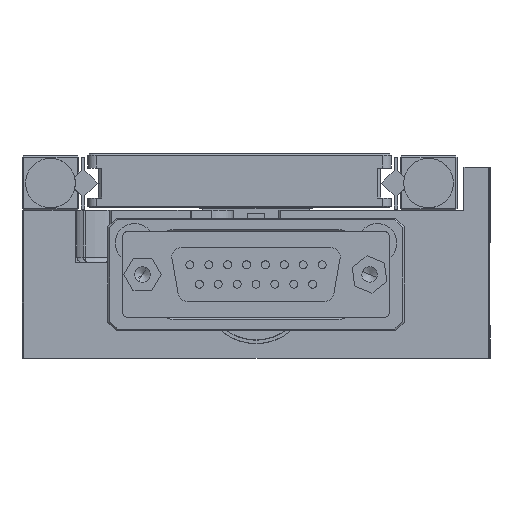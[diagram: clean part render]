
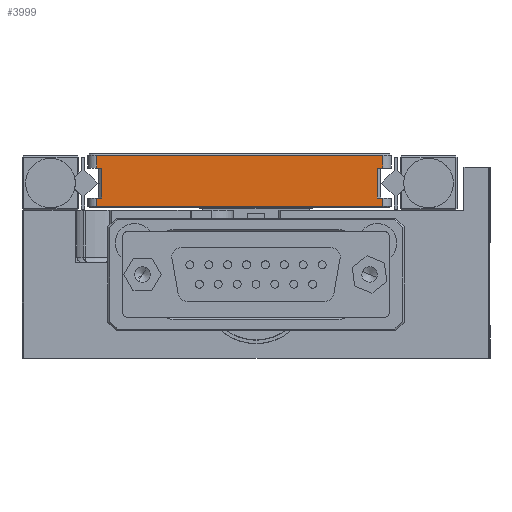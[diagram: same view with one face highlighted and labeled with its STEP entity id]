
A CAD part, left-side view. The second image highlights one B-rep face of the part: STEP entity #3999.
In plain terms, the highlighted planar face has unit normal (-1, 0, 0).
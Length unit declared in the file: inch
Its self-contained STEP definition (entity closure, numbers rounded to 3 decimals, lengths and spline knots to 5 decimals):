
#150 = VERTEX_POINT ( 'NONE', #38722 ) ;
#2372 = VERTEX_POINT ( 'NONE', #49169 ) ;
#2497 = ORIENTED_EDGE ( 'NONE', *, *, #22150, .T. ) ;
#3202 = LINE ( 'NONE', #52570, #5782 ) ;
#3964 = DIRECTION ( 'NONE',  ( 0., -1., 0. ) ) ;
#3999 = ADVANCED_FACE ( 'NONE', ( #37533 ), #55001, .F. ) ;
#5526 = CARTESIAN_POINT ( 'NONE',  ( 0., 2.24016, 0.07749 ) ) ;
#5700 = CARTESIAN_POINT ( 'NONE',  ( 0., 0.57016, -0.17851 ) ) ;
#5782 = VECTOR ( 'NONE', #43398, 39.37008 ) ;
#6810 = ORIENTED_EDGE ( 'NONE', *, *, #10796, .T. ) ;
#7253 = CARTESIAN_POINT ( 'NONE',  ( 0., 0.57016, -0.17851 ) ) ;
#8930 = ORIENTED_EDGE ( 'NONE', *, *, #50907, .T. ) ;
#9363 = EDGE_CURVE ( 'NONE', #2372, #38353, #29095, .T. ) ;
#9560 = CARTESIAN_POINT ( 'NONE',  ( 0., 2.27016, 0.06749 ) ) ;
#9643 = DIRECTION ( 'NONE',  ( 0., 0., -1. ) ) ;
#9780 = VERTEX_POINT ( 'NONE', #18853 ) ;
#9837 = DIRECTION ( 'NONE',  ( 0., 1., 0. ) ) ;
#10106 = VERTEX_POINT ( 'NONE', #50497 ) ;
#10478 = ORIENTED_EDGE ( 'NONE', *, *, #9363, .T. ) ;
#10796 = EDGE_CURVE ( 'NONE', #9780, #150, #57565, .T. ) ;
#12564 = VECTOR ( 'NONE', #46450, 39.37008 ) ;
#12585 = ORIENTED_EDGE ( 'NONE', *, *, #49159, .T. ) ;
#13665 = VECTOR ( 'NONE', #29970, 39.37008 ) ;
#13677 = DIRECTION ( 'NONE',  ( 0., -1., 0. ) ) ;
#15522 = CARTESIAN_POINT ( 'NONE',  ( 0., 0.62016, 0.07749 ) ) ;
#16604 = VECTOR ( 'NONE', #21721, 39.37008 ) ;
#17354 = VERTEX_POINT ( 'NONE', #55483 ) ;
#18853 = CARTESIAN_POINT ( 'NONE',  ( 0., 0.65016, -0.17851 ) ) ;
#19284 = CARTESIAN_POINT ( 'NONE',  ( 0., 2.27016, 0.07749 ) ) ;
#19331 = DIRECTION ( 'NONE',  ( 0., 0., 1. ) ) ;
#19419 = CARTESIAN_POINT ( 'NONE',  ( 0., 0.57016, 0.07749 ) ) ;
#19651 = LINE ( 'NONE', #15522, #20379 ) ;
#19700 = EDGE_CURVE ( 'NONE', #39453, #51219, #3202, .T. ) ;
#19906 = ORIENTED_EDGE ( 'NONE', *, *, #42323, .T. ) ;
#20042 = DIRECTION ( 'NONE',  ( 0., 1., 0. ) ) ;
#20334 = VERTEX_POINT ( 'NONE', #22801 ) ;
#20379 = VECTOR ( 'NONE', #19331, 39.37008 ) ;
#20636 = ORIENTED_EDGE ( 'NONE', *, *, #30310, .T. ) ;
#21721 = DIRECTION ( 'NONE',  ( 0., 0., 1. ) ) ;
#22150 = EDGE_CURVE ( 'NONE', #17354, #34044, #32586, .T. ) ;
#22227 = LINE ( 'NONE', #44715, #54124 ) ;
#22487 = VECTOR ( 'NONE', #9643, 39.37008 ) ;
#22801 = CARTESIAN_POINT ( 'NONE',  ( 0., 2.24016, -0.00651 ) ) ;
#22917 = LINE ( 'NONE', #5526, #22487 ) ;
#23837 = EDGE_CURVE ( 'NONE', #9780, #39703, #29685, .T. ) ;
#24194 = DIRECTION ( 'NONE',  ( 1., 0., 0. ) ) ;
#24587 = VECTOR ( 'NONE', #9837, 39.37008 ) ;
#25502 = AXIS2_PLACEMENT_3D ( 'NONE', #19419, #24194, #20042 ) ;
#25840 = CARTESIAN_POINT ( 'NONE',  ( 0., 0.65016, -0.00651 ) ) ;
#25883 = VECTOR ( 'NONE', #46731, 39.37008 ) ;
#27666 = VECTOR ( 'NONE', #13677, 39.37008 ) ;
#28802 = DIRECTION ( 'NONE',  ( 0., 0., -1. ) ) ;
#29095 = LINE ( 'NONE', #19284, #57345 ) ;
#29685 = LINE ( 'NONE', #7253, #13665 ) ;
#29970 = DIRECTION ( 'NONE',  ( 0., -1., 0. ) ) ;
#30310 = EDGE_CURVE ( 'NONE', #43923, #39703, #19651, .T. ) ;
#31065 = LINE ( 'NONE', #44645, #48182 ) ;
#31750 = CARTESIAN_POINT ( 'NONE',  ( 0., 2.27016, -0.22501 ) ) ;
#31960 = CARTESIAN_POINT ( 'NONE',  ( 0., 0.62016, -0.22501 ) ) ;
#32586 = LINE ( 'NONE', #46157, #12564 ) ;
#33222 = ORIENTED_EDGE ( 'NONE', *, *, #38833, .F. ) ;
#34044 = VERTEX_POINT ( 'NONE', #43281 ) ;
#35818 = DIRECTION ( 'NONE',  ( 0., 1., 0. ) ) ;
#36246 = ORIENTED_EDGE ( 'NONE', *, *, #19700, .T. ) ;
#37533 = FACE_OUTER_BOUND ( 'NONE', #53136, .T. ) ;
#38353 = VERTEX_POINT ( 'NONE', #40061 ) ;
#38722 = CARTESIAN_POINT ( 'NONE',  ( 0., 0.65016, -0.00651 ) ) ;
#38833 = EDGE_CURVE ( 'NONE', #17354, #150, #31065, .T. ) ;
#39453 = VERTEX_POINT ( 'NONE', #51482 ) ;
#39703 = VERTEX_POINT ( 'NONE', #41068 ) ;
#40061 = CARTESIAN_POINT ( 'NONE',  ( 0., 2.27016, -0.00651 ) ) ;
#41011 = ORIENTED_EDGE ( 'NONE', *, *, #23837, .F. ) ;
#41068 = CARTESIAN_POINT ( 'NONE',  ( 0., 0.62016, -0.17851 ) ) ;
#42011 = LINE ( 'NONE', #5700, #25883 ) ;
#42323 = EDGE_CURVE ( 'NONE', #10106, #39453, #42011, .T. ) ;
#43281 = CARTESIAN_POINT ( 'NONE',  ( 0., 0.62016, 0.06749 ) ) ;
#43398 = DIRECTION ( 'NONE',  ( 0., 0., -1. ) ) ;
#43923 = VERTEX_POINT ( 'NONE', #31960 ) ;
#44178 = CARTESIAN_POINT ( 'NONE',  ( 0., 0.57016, -0.22501 ) ) ;
#44645 = CARTESIAN_POINT ( 'NONE',  ( 0., 0.57016, -0.00651 ) ) ;
#44715 = CARTESIAN_POINT ( 'NONE',  ( 0., 0.57016, -0.00651 ) ) ;
#46157 = CARTESIAN_POINT ( 'NONE',  ( 0., 0.62016, 0.07749 ) ) ;
#46260 = EDGE_CURVE ( 'NONE', #34044, #2372, #55694, .T. ) ;
#46450 = DIRECTION ( 'NONE',  ( 0., 0., 1. ) ) ;
#46731 = DIRECTION ( 'NONE',  ( 0., 1., 0. ) ) ;
#48182 = VECTOR ( 'NONE', #35818, 39.37008 ) ;
#49159 = EDGE_CURVE ( 'NONE', #51219, #43923, #54528, .T. ) ;
#49169 = CARTESIAN_POINT ( 'NONE',  ( 0., 2.27016, 0.06749 ) ) ;
#50497 = CARTESIAN_POINT ( 'NONE',  ( 0., 2.24016, -0.17851 ) ) ;
#50907 = EDGE_CURVE ( 'NONE', #20334, #10106, #22917, .T. ) ;
#51219 = VERTEX_POINT ( 'NONE', #31750 ) ;
#51482 = CARTESIAN_POINT ( 'NONE',  ( 0., 2.27016, -0.17851 ) ) ;
#52570 = CARTESIAN_POINT ( 'NONE',  ( 0., 2.27016, 0.07749 ) ) ;
#53136 = EDGE_LOOP ( 'NONE', ( #41011, #6810, #33222, #2497, #53354, #10478, #54727, #8930, #19906, #36246, #12585, #20636 ) ) ;
#53354 = ORIENTED_EDGE ( 'NONE', *, *, #46260, .T. ) ;
#54124 = VECTOR ( 'NONE', #3964, 39.37008 ) ;
#54528 = LINE ( 'NONE', #44178, #27666 ) ;
#54727 = ORIENTED_EDGE ( 'NONE', *, *, #57432, .T. ) ;
#55001 = PLANE ( 'NONE',  #25502 ) ;
#55483 = CARTESIAN_POINT ( 'NONE',  ( 0., 0.62016, -0.00651 ) ) ;
#55694 = LINE ( 'NONE', #9560, #24587 ) ;
#57345 = VECTOR ( 'NONE', #28802, 39.37008 ) ;
#57432 = EDGE_CURVE ( 'NONE', #38353, #20334, #22227, .T. ) ;
#57565 = LINE ( 'NONE', #25840, #16604 ) ;
